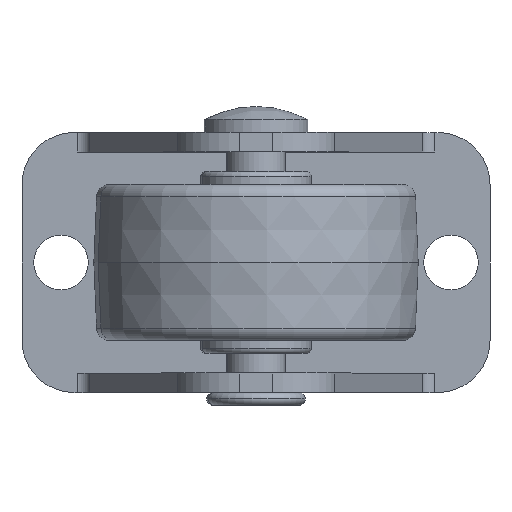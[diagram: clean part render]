
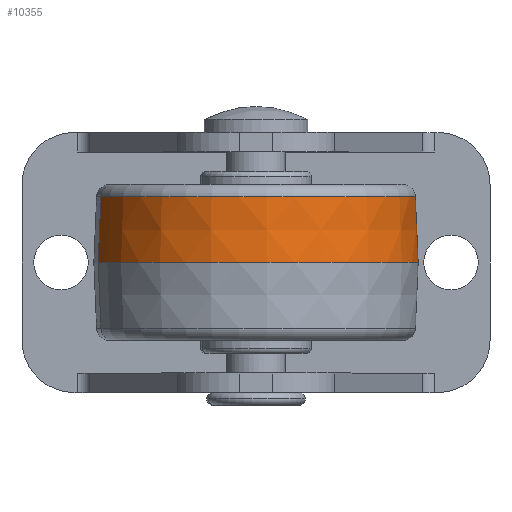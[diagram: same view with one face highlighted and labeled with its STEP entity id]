
A CAD part, front view. The second image highlights one B-rep face of the part: STEP entity #10355.
In plain terms, the highlighted conical face has half-angle 2.386 degrees and reference radius 12.5 mm.
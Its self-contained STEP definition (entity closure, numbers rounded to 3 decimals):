
#126 = ORIENTED_EDGE ( 'NONE', *, *, #6355, .T. ) ;
#198 = CARTESIAN_POINT ( 'NONE',  ( -12.29, 0., 5.042 ) ) ;
#510 = CARTESIAN_POINT ( 'NONE',  ( 12.5, 0., 0. ) ) ;
#518 = DIRECTION ( 'NONE',  ( 0., 0., -1. ) ) ;
#569 = LINE ( 'NONE', #510, #3280 ) ;
#702 = ORIENTED_EDGE ( 'NONE', *, *, #3434, .T. ) ;
#1090 = DIRECTION ( 'NONE',  ( -0.042, 0., -0.999 ) ) ;
#1617 = ORIENTED_EDGE ( 'NONE', *, *, #5414, .F. ) ;
#2691 = VERTEX_POINT ( 'NONE', #4227 ) ;
#3280 = VECTOR ( 'NONE', #5296, 1000. ) ;
#3434 = EDGE_CURVE ( 'NONE', #4658, #2691, #10840, .T. ) ;
#3772 = EDGE_CURVE ( 'NONE', #5226, #4658, #10899, .T. ) ;
#4227 = CARTESIAN_POINT ( 'NONE',  ( -12.5, 0., 0. ) ) ;
#4453 = AXIS2_PLACEMENT_3D ( 'NONE', #8179, #518, #6983 ) ;
#4658 = VERTEX_POINT ( 'NONE', #198 ) ;
#5226 = VERTEX_POINT ( 'NONE', #8968 ) ;
#5296 = DIRECTION ( 'NONE',  ( 0.042, 0., -0.999 ) ) ;
#5414 = EDGE_CURVE ( 'NONE', #5226, #10784, #569, .T. ) ;
#6269 = DIRECTION ( 'NONE',  ( 0., 0., 1. ) ) ;
#6355 = EDGE_CURVE ( 'NONE', #2691, #10784, #8315, .T. ) ;
#6983 = DIRECTION ( 'NONE',  ( 1., 0., 0. ) ) ;
#7136 = EDGE_LOOP ( 'NONE', ( #8728, #702, #126, #1617 ) ) ;
#7440 = CONICAL_SURFACE ( 'NONE', #4453, 12.5, 0.042 ) ;
#7510 = AXIS2_PLACEMENT_3D ( 'NONE', #10048, #6269, #9054 ) ;
#8179 = CARTESIAN_POINT ( 'NONE',  ( 0., 0., 0. ) ) ;
#8315 = CIRCLE ( 'NONE', #7510, 12.5 ) ;
#8476 = CARTESIAN_POINT ( 'NONE',  ( 12.5, 0., 0. ) ) ;
#8728 = ORIENTED_EDGE ( 'NONE', *, *, #3772, .T. ) ;
#8968 = CARTESIAN_POINT ( 'NONE',  ( 12.29, 0., 5.042 ) ) ;
#9054 = DIRECTION ( 'NONE',  ( 1., 0., 0. ) ) ;
#9105 = VECTOR ( 'NONE', #1090, 1000. ) ;
#9499 = DIRECTION ( 'NONE',  ( 0., 0., -1. ) ) ;
#9704 = CARTESIAN_POINT ( 'NONE',  ( -12.5, 0., 0. ) ) ;
#9996 = CARTESIAN_POINT ( 'NONE',  ( 0., 0., 5.042 ) ) ;
#10005 = FACE_OUTER_BOUND ( 'NONE', #7136, .T. ) ;
#10048 = CARTESIAN_POINT ( 'NONE',  ( 0., 0., 0. ) ) ;
#10355 = ADVANCED_FACE ( 'NONE', ( #10005 ), #7440, .T. ) ;
#10784 = VERTEX_POINT ( 'NONE', #8476 ) ;
#10840 = LINE ( 'NONE', #9704, #9105 ) ;
#10899 = CIRCLE ( 'NONE', #11125, 12.29 ) ;
#11125 = AXIS2_PLACEMENT_3D ( 'NONE', #9996, #9499, #11335 ) ;
#11335 = DIRECTION ( 'NONE',  ( 1., 0., 0. ) ) ;
